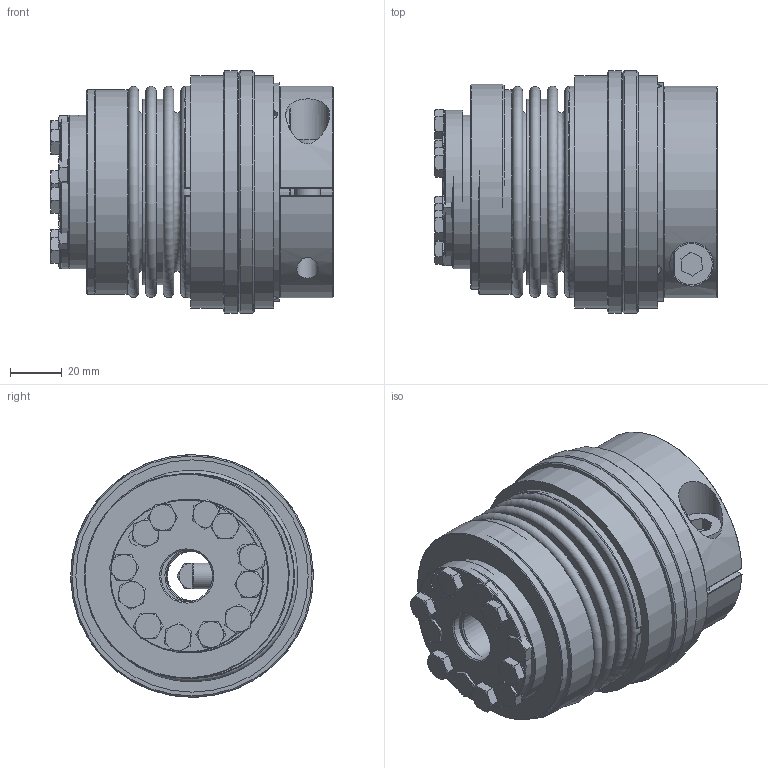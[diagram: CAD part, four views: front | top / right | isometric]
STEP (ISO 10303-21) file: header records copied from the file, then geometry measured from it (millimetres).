
FILE_DESCRIPTION( ( 'Unknown' ), '1' );
FILE_NAME( 'C:/Dokumente und Einstellungen/SKarpstein/Desktop/Korrigierte 3D Modelle/KBK-B-IK/KBK-BIK-80-107.stp', 'Unknown', ( 'Unknown' ), ( 'Unknown' ), 'XStep 1.0', 'Unknown', ' ' );
FILE_SCHEMA( ( 'automotive_design' ) );
Length unit declared in the file: millimetre
Products named in the file (13): Assem1; Assem2; Assem3; Zylinderschraube DIN 912_1; Hex Screw GradeC_ISO_ISO 4018 - M6 x 25-WN_4; BA80-150_Standard_4; KB80-150_Standard_4; Stellring 80; Druckring 80; KBK L-K-80 Grundkörper; Klemmnabe 80; Flansch BK150; BK80-150_Standard_3
Bounding box: 109.64 x 94 x 94 mm (x, y, z)
Volume: 897018.2 mm3; surface area: 348939.1 mm2
Topology: 34 solids, 34 shells, 726 faces, 1536 edges, 959 vertices
Faces by surface type: plane 351, cone 176, cylinder 164, torus 35
Full cylindrical faces by diameter (mm): 3.242 x6, 5 x8, 5.2 x6, 6 x40, 6.6 x18, 8.376 x2, 10 x16, 10.5 x2, 16 x3, 17 x2, 19 x2, 20 x3, 37.5 x2, 40 x4, 41 x3, 42 x2, 48 x2, 52 x2, 58 x3, 59.5 x3, 62 x4, 70 x2, 70.7 x4, 71.9 x4, 79.5 x3, 85 x2, 87 x2, 90 x4, 94 x2
Entity records: 5728 total; most frequent: CARTESIAN_POINT 1379, DIRECTION 896, ORIENTED_EDGE 598, AXIS2_PLACEMENT_3D 414, EDGE_LOOP 398, EDGE_CURVE 299, FACE_OUTER_BOUND 278, VERTEX_POINT 253
